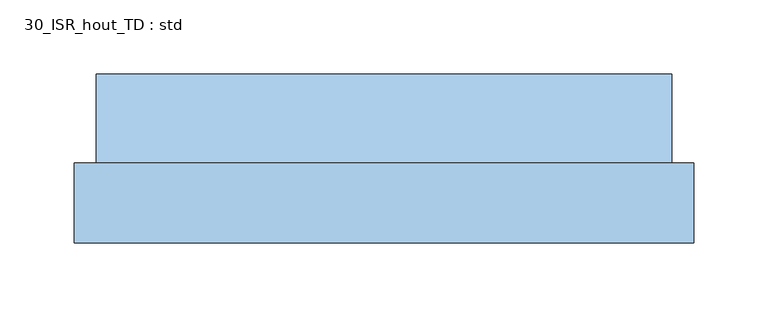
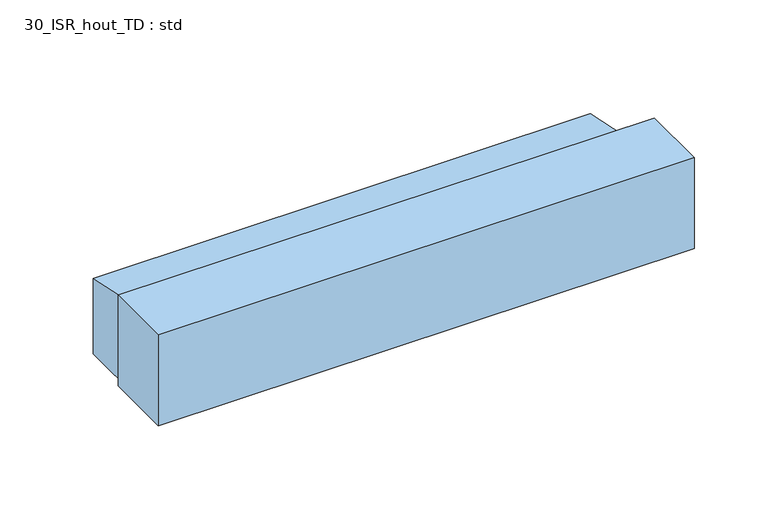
"""IFC4 building model written with IfcOpenShell, lengths in millimetres: window geometry, 30_ISR_hout_TD : std."""

import ifcopenshell
import ifcopenshell.guid

model = None  # the IFC model being written
_history = None  # IfcOwnerHistory: only IFC2X3 demands one
_inside = {}  # id of a spatial element -> (the spatial element, [elements in it])
_under = {}  # id of a project, library or spatial element -> (it, [spatial elements below it])
_declared = {}  # id of a project -> (the project, [libraries it declares])
_typed = {}  # id of a type object -> (the type object, [elements of that type])
_made_of = {}  # id of a material, layer set ... -> (it, [elements and type objects made of it])


def new_model(schema):
    """Start an empty IFC model of exactly this schema.

    Asked for "IFC4X3", IfcOpenShell would pick the latest addendum, in which some entities
    have other attributes; the version numbers below select the first issue.
    IFC2X3 requires an IfcOwnerHistory on every rooted entity: one is made here for all.
    """
    global model, _history
    if schema == "IFC4X3":
        model = ifcopenshell.file(schema_version=(4, 3, 0, 0))
    else:
        model = ifcopenshell.file(schema=schema)
    _inside.clear()
    _under.clear()
    _declared.clear()
    _typed.clear()
    _made_of.clear()
    _history = None
    if model.schema == "IFC2X3":
        org = make("IfcOrganization", Name="unknown")
        user = make(
            "IfcPersonAndOrganization",
            ThePerson=make("IfcPerson", FamilyName="unknown"),
            TheOrganization=org,
        )
        app = make(
            "IfcApplication",
            ApplicationDeveloper=org,
            Version="unknown",
            ApplicationFullName="unknown",
            ApplicationIdentifier="unknown",
        )
        _history = make(
            "IfcOwnerHistory",
            OwningUser=user,
            OwningApplication=app,
            ChangeAction="ADDED",
            CreationDate=0,
        )
    return model


def make(cls, **values):
    """One entity of the class cls with the attributes given. An attribute that is None is left unset."""
    return model.create_entity(
        cls, **{name: value for name, value in values.items() if value is not None}
    )


def rooted(cls, **values):
    """An entity with a GlobalId (a new one), such as an element, a storey or a relation."""
    return make(cls, GlobalId=ifcopenshell.guid.new(), OwnerHistory=_history, **values)


def si_unit(unit_type, name, prefix=None):
    """IfcSIUnit, for example si_unit("LENGTHUNIT", "METRE", prefix="MILLI")."""
    return make("IfcSIUnit", UnitType=unit_type, Prefix=prefix, Name=name)


def assignment(units):
    """IfcUnitAssignment: the units of a project."""
    return None if units is None else make("IfcUnitAssignment", Units=units)


def point(xyz):
    """IfcCartesianPoint."""
    return None if xyz is None else make("IfcCartesianPoint", Coordinates=xyz)


def direction(xyz):
    """IfcDirection."""
    return None if xyz is None else make("IfcDirection", DirectionRatios=xyz)


def frame(location, z_axis=None, x_axis=None):
    """IfcAxis2Placement3D, a coordinate frame: its origin and axes. An axis left out is left unset."""
    return make(
        "IfcAxis2Placement3D",
        Location=point(location),
        Axis=direction(z_axis),
        RefDirection=direction(x_axis),
    )


def origin():
    """The frame at (0, 0, 0) with its axes left unset."""
    return frame((0.0, 0.0, 0.0))


def place(relative_to, where):
    """IfcLocalPlacement: puts the frame where relative to a parent placement (None: the world)."""
    return make(
        "IfcLocalPlacement", PlacementRelTo=relative_to, RelativePlacement=where
    )


def context(
    kind, dimensions, precision=None, world=None, true_north=None, identifier=None
):
    """IfcGeometricRepresentationContext, for example the 3D "Model" context."""
    return make(
        "IfcGeometricRepresentationContext",
        ContextIdentifier=identifier,
        ContextType=kind,
        CoordinateSpaceDimension=dimensions,
        Precision=precision,
        WorldCoordinateSystem=world,
        TrueNorth=true_north,
    )


def project(units=None, contexts=None):
    """IfcProject with its units and contexts."""
    return rooted(
        "IfcProject",
        Name="project",
        RepresentationContexts=contexts,
        UnitsInContext=assignment(units),
    )


def spatial(cls, under=None, at=None, **own):
    """A site, building, storey or space (cls), placed at a placement, below another one or the project."""
    s = rooted(cls, ObjectPlacement=at, **own)
    if under is not None:
        _under.setdefault(under.id(), (under, []))[1].append(s)
    return s


def faces_of(points, faces, orient=None, outer=None):
    """IfcFace entities. A face is a list of loops; a loop is a list of indices into points, from 0.

    orient and outer hold one flag for each loop. By default every Orientation is true, the
    first loop of a face is its IfcFaceOuterBound and the others are IfcFaceBound.
    """
    made = []
    for i, loops in enumerate(faces):
        bounds = []
        for j, loop in enumerate(loops):
            is_outer = j == 0 if outer is None else outer[i][j]
            bounds.append(
                make(
                    "IfcFaceOuterBound" if is_outer else "IfcFaceBound",
                    Bound=make("IfcPolyLoop", Polygon=[points[k] for k in loop]),
                    Orientation=True if orient is None else orient[i][j],
                )
            )
        made.append(make("IfcFace", Bounds=bounds))
    return made


def faceted_brep(points, faces, orient=None, outer=None, voids=None):
    """IfcFacetedBrep: a solid bounded by flat faces; with voids (closed shells), ...WithVoids."""
    shared = [point(p) for p in points]
    hull = make("IfcClosedShell", CfsFaces=faces_of(shared, faces, orient, outer))
    if voids is None:
        return make("IfcFacetedBrep", Outer=hull)
    return make(
        "IfcFacetedBrepWithVoids",
        Outer=hull,
        Voids=[
            make(cls, CfsFaces=faces_of(shared, fs, o, b)) for cls, fs, o, b in voids
        ],
    )


def shape(context_of_items, identifier, shape_type, items):
    """IfcShapeRepresentation: the items that make up one representation, for example the "Body"."""
    return make(
        "IfcShapeRepresentation",
        ContextOfItems=context_of_items,
        RepresentationIdentifier=identifier,
        RepresentationType=shape_type,
        Items=items,
    )


def source(mapping_origin, context_of_items, identifier, shape_type, items):
    """IfcRepresentationMap: a shape defined once, which mapped items show again and again."""
    return make(
        "IfcRepresentationMap",
        MappingOrigin=mapping_origin,
        MappedRepresentation=shape(context_of_items, identifier, shape_type, items),
    )


def transform(
    local_origin,
    x_axis=None,
    y_axis=None,
    z_axis=None,
    scale=None,
    scale2=None,
    scale3=None,
    uniform=True,
):
    """IfcCartesianTransformationOperator3D, or its non-uniform kind. x_axis, y_axis, z_axis: its Axis1, 2, 3."""
    if uniform:
        return make(
            "IfcCartesianTransformationOperator3D",
            Axis1=direction(x_axis),
            Axis2=direction(y_axis),
            LocalOrigin=point(local_origin),
            Scale=scale,
            Axis3=direction(z_axis),
        )
    return make(
        "IfcCartesianTransformationOperator3DnonUniform",
        Axis1=direction(x_axis),
        Axis2=direction(y_axis),
        LocalOrigin=point(local_origin),
        Scale=scale,
        Axis3=direction(z_axis),
        Scale2=scale2,
        Scale3=scale3,
    )


def mapped(mapping_source, mapping_target):
    """IfcMappedItem: shows the shape of a source again, moved by a transform."""
    return make(
        "IfcMappedItem", MappingSource=mapping_source, MappingTarget=mapping_target
    )


def made_of(thing, what):
    """Note that an element or type object is made of a material, layer set ...; save() writes the relation."""
    if what is not None:
        _made_of.setdefault(what.id(), (what, []))[1].append(thing)
    return thing


def element(
    cls,
    number,
    at=None,
    inside=None,
    cuts=None,
    type_object=None,
    material=None,
    context=None,
    identifier="Body",
    shape_type=None,
    held_by="IfcProductDefinitionShape",
    body=None,
    shapes=None,
    **own,
):
    """One element of the class cls, such as IfcWall. Its Tag is "e" and its number.

    at: its placement. inside: the storey or other place that contains it. cuts: it is an
    opening in that element (IfcRelVoidsElement). A single representation is given by context,
    identifier, shape_type and body (its items); several are given by shapes. held_by: the class
    of the entity that holds the representations. save() writes the other relations.
    """
    e = rooted(cls, Tag="e%d" % number, ObjectPlacement=at, **own)
    if body is not None:
        shapes = [shape(context, identifier, shape_type, body)]
    if shapes is not None:
        e.Representation = make(held_by, Representations=shapes)
    if inside is not None:
        _inside.setdefault(inside.id(), (inside, []))[1].append(e)
    if cuts is not None:
        rooted(
            "IfcRelVoidsElement", RelatingBuildingElement=cuts, RelatedOpeningElement=e
        )
    if type_object is not None:
        _typed.setdefault(type_object.id(), (type_object, []))[1].append(e)
    return made_of(e, material)


def aggregate(whole, parts):
    """IfcRelAggregates: a whole, such as a stair, and the parts it consists of."""
    return rooted("IfcRelAggregates", RelatingObject=whole, RelatedObjects=parts)


def save(model, path):
    """Write the relations noted so far, then the file.

    IfcRelAggregates (storeys below a building ...), IfcRelContainedInSpatialStructure (elements
    in a storey), IfcRelDefinesByType, IfcRelAssociatesMaterial and IfcRelDeclares: one each for
    every whole, place, type object, material and project.
    """
    for whole, parts in _under.values():
        aggregate(whole, parts)
    for where, things in _inside.values():
        rooted(
            "IfcRelContainedInSpatialStructure",
            RelatedElements=things,
            RelatingStructure=where,
        )
    for kind, things in _typed.values():
        rooted("IfcRelDefinesByType", RelatedObjects=things, RelatingType=kind)
    for what, things in _made_of.values():
        rooted("IfcRelAssociatesMaterial", RelatedObjects=things, RelatingMaterial=what)
    for by, libraries in _declared.values():
        rooted("IfcRelDeclares", RelatingContext=by, RelatedDefinitions=libraries)
    model.write(path)


def window_30_isr_hout_td_std_6132d90b(model_context):
    return source(origin(), model_context, "Body", "Brep", [
        faceted_brep([(0.0, -60.0, 15.0), (388.0, -60.0, 15.0), (403.0, -60.0, 15.0), (403.0, -114.0, 15.0), (-15.0, -114.0, 15.0), (-15.0, -60.0, 15.0), (0.0, -60.0, 0.0), (388.0, -60.0, 0.0), (388.0, -60.0, 75.0), (388.0, 0.0, 62.2466063), (0.0, 0.0, 62.2466063), (0.0, -60.0, 75.0), (-15.0, -60.0, 90.0), (403.0, -60.0, 90.0), (0.0, 0.0, 0.0), (388.0, 0.0, 0.0), (-15.0, -114.0, 90.0), (403.0, -114.0, 90.0)], [[[0, 1, 2, 3, 4, 5]], [[1, 0, 6, 7]], [[8, 9, 10, 11]], [[8, 11, 0, 5, 12, 13, 2, 1]], [[10, 14, 6, 0, 11]], [[15, 9, 8, 1, 7]], [[16, 12, 5, 4]], [[13, 17, 3, 2]], [[9, 15, 14, 10]], [[15, 7, 6, 14]], [[17, 16, 4, 3]], [[16, 17, 13, 12]]]),
    ])


if __name__ == "__main__":
    model = new_model("IFC4")
    model_context = context("Model", 3, world=origin())
    ifc_project = project(units=[si_unit("LENGTHUNIT", "METRE", prefix="MILLI")], contexts=[model_context])
    site = spatial("IfcSite", under=ifc_project)
    building = spatial("IfcBuilding", under=site)
    placement = place(None, origin())
    window_30_isr_hout_td_std_shape = window_30_isr_hout_td_std_6132d90b(model_context)
    element("IfcWindow", 1, ObjectType="30_ISR_hout_TD : std", at=placement, inside=building, context=model_context, shape_type="MappedRepresentation", body=[
        mapped(window_30_isr_hout_td_std_shape, transform((0.0, 0.0, 0.0), x_axis=(1.0, 0.0, 0.0), y_axis=(0.0, 1.0, 0.0), z_axis=(0.0, 0.0, 1.0))),
    ])
    save(model, "model.ifc")
